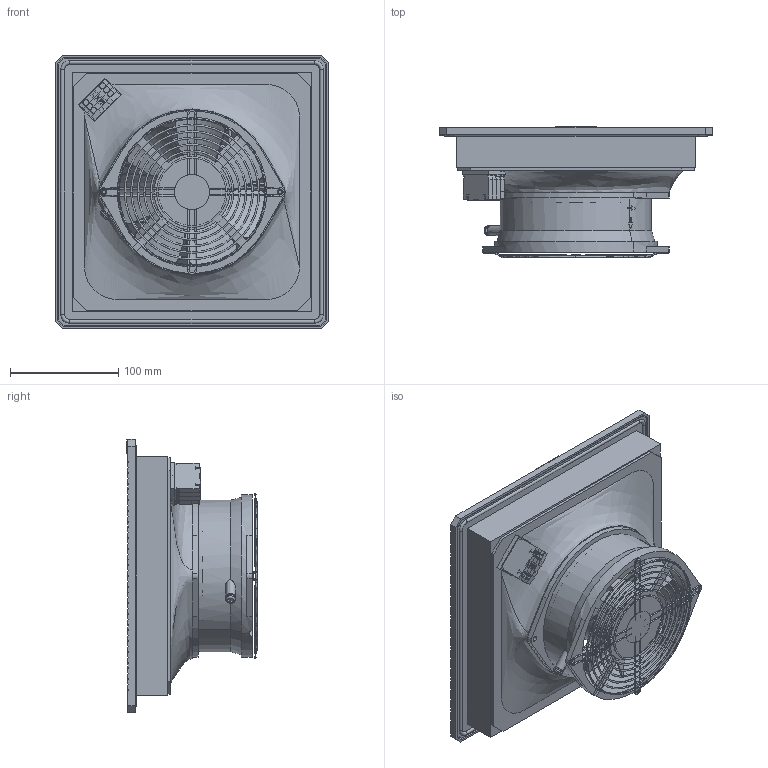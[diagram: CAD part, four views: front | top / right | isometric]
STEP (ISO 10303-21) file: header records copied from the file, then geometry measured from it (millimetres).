
FILE_DESCRIPTION (( 'STEP AP214' ), '1' );
FILE_NAME ('PF43000_AC.STEP', '2007-05-25T12:40:55', ( 'Pfannenberg' ), ( 'Pfannenberg Group' ), 'SwSTEP 2.0', 'SolidWorks 2007', '' );
FILE_SCHEMA (( 'AUTOMOTIVE_DESIGN' ));
Length unit declared in the file: millimetre
Products named in the file (8): PF43000_AC; flow in nozzel PF4x_Standard; 30162-013_Standard; cover PF4x_Standard; housing PF4x_Standard; 005047030 - Berührungsschutzgitter LZ 27_005047030 - LZ27; Axial Lüfter Serie W2S130_010041740 W2S130-AA03-77 230V 130mmKabel; Klemme_L_N_PE_Standard
Assembly tree (7 placements, depth 2):
  PF43000_AC
    cover PF4x_Standard
    Klemme_L_N_PE_Standard
    005047030 - Berührungsschutzgitter LZ 27_005047030 - LZ27
    Axial Lüfter Serie W2S130_010041740 W2S130-AA03-77 230V 130mmKabel
    30162-013_Standard
    housing PF4x_Standard
    flow in nozzel PF4x_Standard
Bounding box: 252 x 120.76 x 252 mm (x, y, z)
Volume: 802689.4 mm3; surface area: 552881.8 mm2
Topology: 16 solids, 16 shells, 1930 faces, 5533 edges, 3487 vertices
Faces by surface type: plane 847, cylinder 569, bspline 273, torus 231, cone 10
Entity records: 109590 total; most frequent: CARTESIAN_POINT 61574, ORIENTED_EDGE 11066, DIRECTION 8034, EDGE_CURVE 5533, VERTEX_POINT 3487, VECTOR 2696, LINE 2696, AXIS2_PLACEMENT_3D 2669
